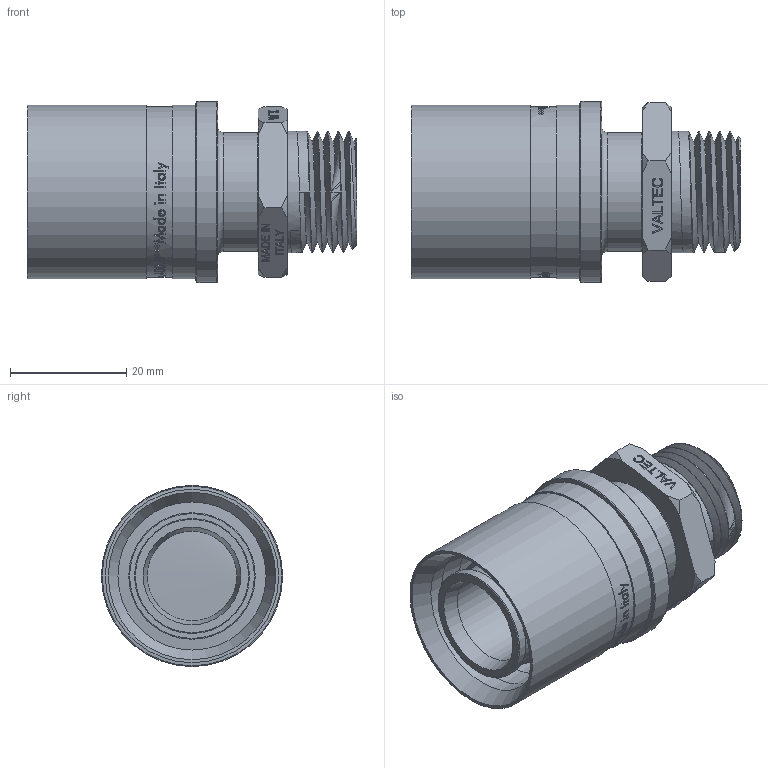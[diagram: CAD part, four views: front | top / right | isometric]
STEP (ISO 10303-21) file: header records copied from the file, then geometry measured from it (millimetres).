
FILE_DESCRIPTION(/* description */ (''),/* implementation_level */ '2;1');
FILE_NAME(/* name */ 'F:\Артём\00000\Работа удаленка\Аксеальные фитинги\VTm.401.BG.002504.stp',/* time_stamp */ '2021-01-25T14:12:46+03:00',/* author */ ('almis'),/* organization */ (''),/* preprocessor_version */ 'ST-DEVELOPER v18',/* originating_system */ 'Autodesk Inventor 2020',/* authorisation */ '');
FILE_SCHEMA (('AUTOMOTIVE_DESIGN { 1 0 10303 214 3 1 1 }'));
Length unit declared in the file: millimetre
Products named in the file (1): VTm.403.BG.001616
Bounding box: 56.81 x 31.2 x 31.2 mm (x, y, z)
Volume: 14795.7 mm3; surface area: 14507.5 mm2
Topology: 1 solids, 1 shells, 987 faces, 2701 edges, 1817 vertices
Faces by surface type: plane 432, bspline 422, cylinder 88, torus 24, cone 21
Full cylindrical faces by diameter (mm): 15.4 x1, 17.3 x5, 18.3 x4, 19.8 x5, 20.5 x1, 20.9 x5, 21.8 x1, 25.5 x2, 29.3 x1, 29.85 x2, 31.2 x1
Entity records: 39837 total; most frequent: CARTESIAN_POINT 17332, ORIENTED_EDGE 5402, DIRECTION 3335, EDGE_CURVE 2701, VERTEX_POINT 1817, LINE 1413, VECTOR 1413, EDGE_LOOP 1090
